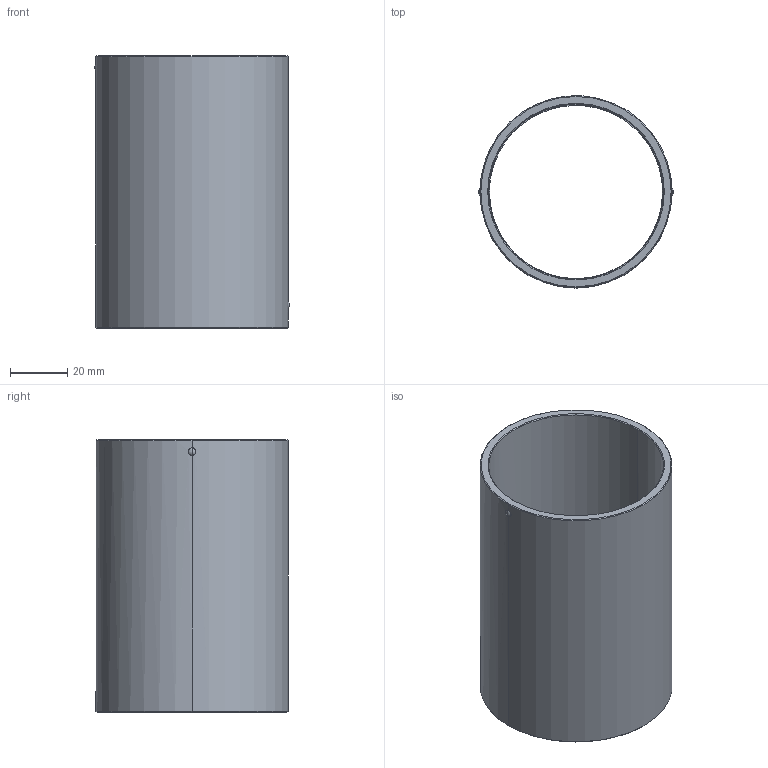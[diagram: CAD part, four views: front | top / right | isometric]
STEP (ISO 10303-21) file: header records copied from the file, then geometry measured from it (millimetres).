
FILE_DESCRIPTION(('CATIA V5 STEP Exchange'),'2;1');
FILE_NAME('C:\Users\Utente\Desktop\IO LAVORO\3D X SITO CF\X SITO\730\730-60x95.stp','2021-01-07T16:04:58+00:00',('none'),('none'),'CATIA Version 5 Release 20 GA (IN-10)','CATIA V5 STEP AP203','none');
FILE_SCHEMA(('CONFIG_CONTROL_DESIGN'));
Length unit declared in the file: millimetre
Products named in the file (1): 730-60x95
Bounding box: 67.99 x 67 x 95 mm (x, y, z)
Volume: 56463 mm3; surface area: 39950.6 mm2
Topology: 1 solids, 1 shells, 44 faces, 120 edges, 76 vertices
Faces by surface type: cylinder 18, cone 10, plane 8, sphere 8
Entity records: 1748 total; most frequent: CARTESIAN_POINT 685, ORIENTED_EDGE 240, DIRECTION 159, EDGE_CURVE 120, AXIS2_PLACEMENT_3D 78, VERTEX_POINT 76, B_SPLINE_CURVE_WITH_KNOTS 49, EDGE_LOOP 48
